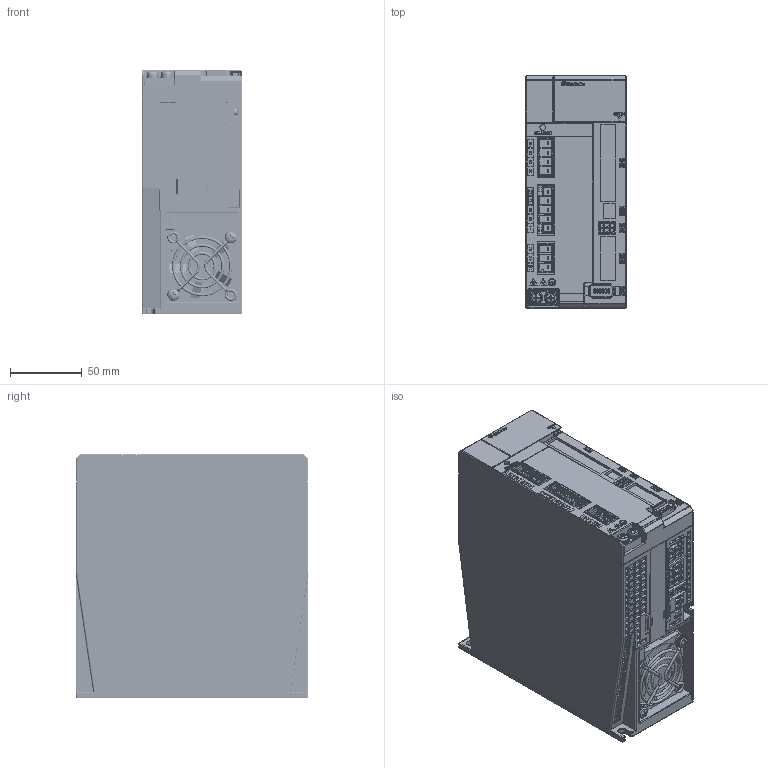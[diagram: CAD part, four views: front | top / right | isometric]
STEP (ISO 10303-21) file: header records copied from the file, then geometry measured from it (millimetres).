
FILE_DESCRIPTION((''),'2;1');
FILE_NAME('D:\999999.黃世程_移交過資料_20171003\0._專案\4.伺服驅動器\20210415_給客人3D\SDP-B框\SDP-B框簡化.stp','2021-04-15T15:59:09',('11254'),(''),'Autodesk Inventor 2008','Autodesk Inventor 2008','');
FILE_SCHEMA(('AUTOMOTIVE_DESIGN { 1 0 10303 214 1 1 1 1 }'));
Length unit declared in the file: millimetre
Products named in the file (1): SDP-B框簡化
Bounding box: 70 x 162 x 170.4 mm (x, y, z)
Volume: 1618744.7 mm3; surface area: 214655.4 mm2
Topology: 1 solids, 13 shells, 8918 faces, 25490 edges, 16854 vertices
Faces by surface type: plane 6850, cylinder 1354, bspline 345, cone 155, torus 147, sphere 67
Full cylindrical faces by diameter (mm): 0.415 x5, 0.8 x10, 1 x2, 1.267 x4, 1.9 x4, 2 x2, 2.2 x1, 2.694 x6, 3 x10, 3.2 x6, 3.4 x4, 3.5 x4, 3.571 x2, 3.621 x2, 4 x6, 4.3 x8, 4.33 x1, 4.5 x4, 5 x1, 5.5 x2, 6 x6, 9 x4, 10 x2, 23 x1, 48 x1
Entity records: 293750 total; most frequent: CARTESIAN_POINT 60664, ORIENTED_EDGE 50356, DIRECTION 44757, EDGE_CURVE 25178, VECTOR 20671, LINE 20671, VERTEX_POINT 16776, AXIS2_PLACEMENT_3D 12043
